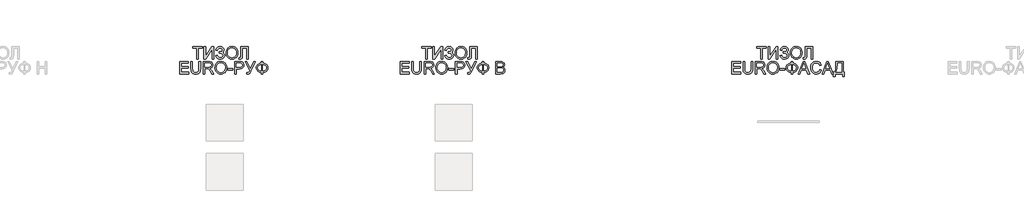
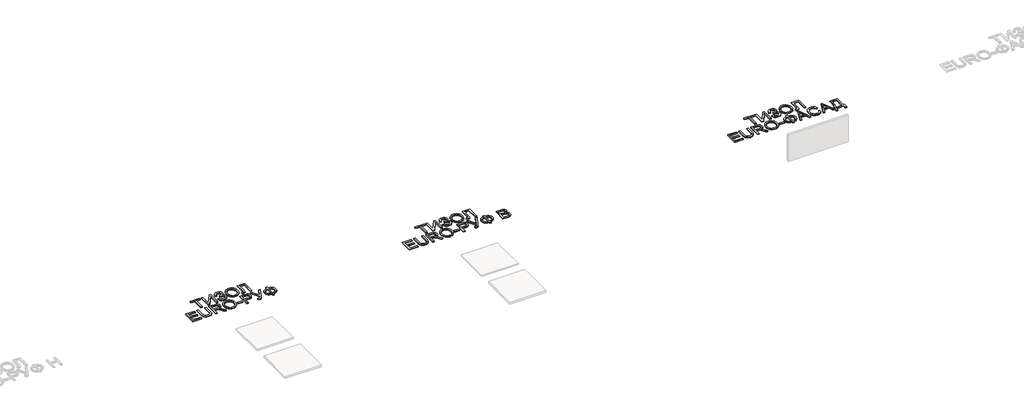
# One storey, part 33 of 35: 3 proxies.
"""IFC4 building model written with IfcOpenShell, lengths in millimetres."""

from ifc_helpers import new_model, si_unit, origin, origin_with_axes, place, context, project, spatial, polyline, outline, extrude, element, save

model = new_model("IFC4")

# Units and contexts
model_context = context("Model", 3, world=origin())
ifc_project = project(units=[si_unit("LENGTHUNIT", "METRE", prefix="MILLI")], contexts=[model_context])

# Site, building, storey
site = spatial("IfcSite", under=ifc_project)
building = spatial("IfcBuilding", under=site)
storey = spatial("IfcBuildingStorey", under=building, Name="Этаж 01", Elevation=0.0)

# Proxies
placement = place(None, origin())
element("IfcBuildingElementProxy", 1, Name="600 мм Arial", ObjectType="600 мм Arial", at=placement, inside=storey, context=model_context, shape_type="SweptSolid", body=[
    extrude(outline(polyline([(57612.8246338, 5315.0742808), (57612.8246338, 5578.7720949), (57513.9379535, 5578.7720949), (57513.9379535, 5616.4432112), (57749.3824304, 5616.4432112), (57749.3824304, 5578.7720949), (57650.4957501, 5578.7720949), (57650.4957501, 5315.0742808), (57612.8246338, 5315.0742808)])), origin_with_axes(), (0.0, 0.0, 1.0), 20.0),
    extrude(outline(polyline([(57791.7624363, 5616.4432112), (57829.4335526, 5616.4432112), (57829.4335526, 5377.7613727), (57987.1813521, 5616.4432112), (58027.2069132, 5616.4432112), (58027.2069132, 5315.0742808), (57989.5357969, 5315.0742808), (57989.5357969, 5553.0939316), (57832.1558793, 5315.0742808), (57791.7624363, 5315.0742808), (57791.7624363, 5616.4432112)])), origin_with_axes(), (0.0, 0.0, 1.0), 20.0),
    extrude(outline(polyline([(58079.0046981, 5399.8342925), (58116.6758144, 5409.2520715), (58124.6312626, 5388.8622119), (58139.8155919, 5368.4539583), (58161.6769795, 5353.1408702), (58189.6636023, 5348.0365075), (58218.018107, 5351.8716773), (58239.6587654, 5363.3771867), (58253.3715668, 5380.3089556), (58257.9425006, 5400.4229036), (58252.9485025, 5421.4933449), (58237.9665082, 5437.7629262), (58214.3760753, 5448.1647896), (58183.5567611, 5451.6320774), (58163.7647098, 5451.6320774), (58163.7647098, 5489.3031937), (58206.402233, 5492.3566142), (58220.2989754, 5497.7828737), (58232.4850665, 5507.9548108), (58240.9831406, 5521.3549125), (58243.8158319, 5536.4656655), (58240.0450415, 5554.2067747), (58228.7326701, 5569.4646804), (58210.9823639, 5579.9769084), (58187.8977687, 5583.4809844), (58167.0296625, 5580.7862488), (58149.4541002, 5572.702042), (58135.9896192, 5560.166463), (58127.4547569, 5544.117611), (58121.384704, 5517.5565309), (58083.7135876, 5526.97431), (58095.4168336, 5568.1770934), (58104.8311638, 5584.3639012), (58116.6206321, 5597.6076531), (58130.7852386, 5607.9083489), (58147.3249831, 5615.2659888), (58166.2398658, 5619.6805728), (58187.5298867, 5621.1521008), (58208.0416072, 5619.6230912), (58226.313846, 5615.0360626), (58242.3466032, 5607.3910149), (58256.1398788, 5596.6879481), (58267.2292217, 5583.9385377), (58275.1501809, 5570.1544592), (58279.9027564, 5555.3357126), (58281.4869483, 5539.4822978), (58279.0221389, 5519.6580568), (58271.6277108, 5502.1974576), (58259.3036639, 5487.1005002), (58242.0499984, 5474.3671847), (58263.000878, 5464.7194794), (58280.2361495, 5448.431504), (58291.76925, 5426.9012102), (58295.6136169, 5401.5265496), (58293.7696084, 5382.8956258), (58288.2375829, 5365.8511931), (58279.0175404, 5350.3932516), (58266.1094809, 5336.5218011), (58250.1571978, 5325.0783718), (58231.8044848, 5316.9044937), (58211.0513418, 5312.0001668), (58187.8977687, 5310.3653912), (58149.6932235, 5315.9571976), (58133.3362703, 5322.9469555), (58118.80953, 5332.7326165), (58106.1130026, 5345.3141808), (58095.2466882, 5360.6916482), (58079.0046981, 5399.8342925)])), origin_with_axes(), (0.0, 0.0, 1.0), 20.0),
    extrude(outline(polyline([(58333.2847332, 5461.7856204), (58335.7955278, 5497.1344817), (58343.3279116, 5528.4274439), (58355.8818847, 5555.6645071), (58373.457447, 5578.8456713), (58395.0015364, 5597.3547342), (58419.4610905, 5610.5754934), (58446.8361095, 5618.5079489), (58477.1265933, 5621.1521008), (58516.6555137, 5616.1856938), (58552.1009439, 5601.286473), (58581.5315035, 5577.502902), (58603.015812, 5545.8834445), (58616.1491993, 5507.9548108), (58620.526995, 5465.2437112), (58615.919273, 5421.9623945), (58602.096107, 5383.5003319), (58579.8208522, 5351.8256921), (58549.8568637, 5328.9066438), (58514.7149361, 5315.0007044), (58476.9058641, 5310.3653912), (58436.7699384, 5315.488148), (58401.1221731, 5330.8564184), (58371.7651899, 5355.0814477), (58350.5016105, 5386.7744816), (58337.5889525, 5423.2407844), (58333.2847332, 5461.7856204)]), holes=[polyline([(58370.9558495, 5461.4177384), (58372.8389454, 5436.4431495), (58378.4882333, 5414.2736608), (58387.9037131, 5394.9092722), (58401.0853849, 5378.3499839), (58417.108945, 5365.087838), (58435.0500901, 5355.6148766), (58454.90882, 5349.9310998), (58476.6851349, 5348.0365075), (58498.8339303, 5349.9494939), (58518.927185, 5355.688453), (58536.9648991, 5365.2533849), (58552.9470725, 5378.6442895), (58566.0321752, 5395.5530657), (58575.3786771, 5415.6716123), (58580.9865783, 5438.9999294), (58582.8558787, 5465.5380168), (58579.6553053, 5498.8865197), (58570.0535853, 5527.710074), (58554.2990388, 5551.2821128), (58532.6399864, 5568.8760692), (58506.5111677, 5579.8297556), (58477.3473225, 5583.4809844), (58456.327465, 5581.7220487), (58436.8251207, 5576.4452413), (58418.8402897, 5567.6505623), (58402.3729719, 5555.3380118), (58388.6279808, 5538.91438), (58378.8101301, 5517.7864572), (58372.9194196, 5491.9542433), (58370.9558495, 5461.4177384)])]), origin_with_axes(), (0.0, 0.0, 1.0), 20.0),
    extrude(outline(polyline([(58695.8692276, 5616.4432112), (58879.5159196, 5616.4432112), (58879.5159196, 5315.0742808), (58841.8448033, 5315.0742808), (58841.8448033, 5578.7720949), (58733.5403439, 5578.7720949), (58733.5403439, 5424.9974209), (58729.1625482, 5356.3874288), (58722.3843224, 5337.0000477), (58710.8052366, 5322.4687089), (58694.9495226, 5313.3912206), (58675.3414123, 5310.3653912), (58644.0714427, 5315.0742808), (58648.7803322, 5352.7453971), (58666.80655, 5348.0365075), (58679.5444641, 5350.5656963), (58688.6219523, 5358.1532624), (58694.0574088, 5375.1218194), (58695.8692276, 5405.7939808), (58695.8692276, 5616.4432112)])), origin_with_axes(), (0.0, 0.0, 1.0), 20.0),
    extrude(outline(polyline([(57193.7334649, 4949.1498272), (57193.7334649, 5250.5187577), (57410.3423837, 5250.5187577), (57410.3423837, 5212.8476414), (57231.4045812, 5212.8476414), (57231.4045812, 5123.3787401), (57400.9246046, 5123.3787401), (57400.9246046, 5085.7076238), (57231.4045812, 5085.7076238), (57231.4045812, 4986.8209435), (57415.0512732, 4986.8209435), (57415.0512732, 4949.1498272), (57193.7334649, 4949.1498272)])), origin_with_axes(), (0.0, 0.0, 1.0), 20.0),
    extrude(outline(polyline([(57669.3313083, 5250.5187577), (57707.0024246, 5250.5187577), (57707.0024246, 5076.6577268), (57704.4456447, 5035.9423869), (57696.7753051, 5004.5896439), (57682.4463014, 4980.4014027), (57659.9135292, 4961.1795685), (57629.1218062, 4948.6255954), (57590.0159501, 4944.4409377), (57551.7654197, 4948.0829694), (57521.1852288, 4959.0090647), (57498.2661805, 4976.8421444), (57482.9990777, 5001.2051295), (57474.4182302, 5033.8822478), (57471.5579477, 5076.6577268), (57471.5579477, 5250.5187577), (57509.229064, 5250.5187577), (57509.229064, 5077.9821019), (57511.0868681, 5044.1277613), (57516.6602803, 5020.5557225), (57526.758641, 5004.230959), (57542.1912907, 4992.1184443), (57562.3144359, 4984.6136516), (57586.484283, 4982.112054), (57624.7991928, 4987.0600668), (57639.141992, 4993.2450829), (57650.2750209, 5001.9041053), (57658.6121466, 5014.0809994), (57664.5672364, 5030.8196302), (57669.3313083, 5077.9821019), (57669.3313083, 5250.5187577)])), origin_with_axes(), (0.0, 0.0, 1.0), 20.0),
    extrude(outline(polyline([(57772.9268781, 4949.1498272), (57772.9268781, 5250.5187577), (57902.7892224, 5250.5187577), (57937.6920267, 5248.4862097), (57963.0850814, 5242.3885656), (57981.6447281, 5231.1313765), (57996.0473082, 5213.6201936), (58005.2903433, 5191.9059588), (58008.371355, 5168.0396144), (58003.2669923, 5138.3515373), (57987.9539043, 5113.7402319), (57976.3541251, 5103.710849), (57961.9722384, 5095.69562), (57924.8621421, 5085.7076238), (57946.2728742, 5069.5943925), (57976.8070798, 5030.8196302), (58027.0597604, 4949.1498272), (57983.281803, 4949.1498272), (57944.0655823, 5011.61619), (57915.7386686, 5052.9661263), (57895.8362527, 5072.5006602), (57877.9203995, 5079.6743591), (57856.068209, 5080.9987343), (57810.5979944, 5080.9987343), (57810.5979944, 4949.1498272), (57772.9268781, 4949.1498272)]), holes=[polyline([(57810.5979944, 5118.6698506), (57894.9165477, 5118.6698506), (57919.1323801, 5120.0034228), (57937.921953, 5124.0041395), (57952.0670157, 5130.9387151), (57962.3493174, 5141.0738641), (57968.6125084, 5153.3335316), (57970.7002387, 5166.6416628), (57966.7179161, 5185.0173684), (57954.7709483, 5199.8246187), (57934.2155419, 5209.5918857), (57904.4079032, 5212.8476414), (57810.5979944, 5212.8476414), (57810.5979944, 5118.6698506)])]), origin_with_axes(), (0.0, 0.0, 1.0), 20.0),
    extrude(outline(polyline([(58060.16914, 5095.8611669), (58062.6799346, 5131.2100281), (58070.2123184, 5162.5029903), (58082.7662915, 5189.7400536), (58100.3418538, 5212.9212178), (58121.8859432, 5231.4302807), (58146.3454973, 5244.6510399), (58173.7205163, 5252.5834954), (58204.0110001, 5255.2276472), (58243.5399204, 5250.2612403), (58278.9853507, 5235.3620195), (58308.4159103, 5211.5784485), (58329.9002188, 5179.958991), (58343.033606, 5142.0303573), (58347.4114018, 5099.3192577), (58342.8036798, 5056.0379409), (58328.9805138, 5017.5758783), (58306.705259, 4985.9012385), (58276.7412705, 4962.9821902), (58241.5993429, 4949.0762508), (58203.7902709, 4944.4409377), (58163.6543452, 4949.5636945), (58128.0065799, 4964.9319648), (58098.6495966, 4989.1569942), (58077.3860173, 5020.8500281), (58064.4733593, 5057.3163309), (58060.16914, 5095.8611669)]), holes=[polyline([(58097.8402563, 5095.4932849), (58099.7233522, 5070.518696), (58105.3726401, 5048.3492072), (58114.7881199, 5028.9848187), (58127.9697917, 5012.4255304), (58143.9933518, 4999.1633845), (58161.9344969, 4989.6904231), (58181.7932268, 4984.0066463), (58203.5695417, 4982.112054), (58225.718337, 4984.0250404), (58245.8115918, 4989.7639995), (58263.8493058, 4999.3289314), (58279.8314793, 5012.719836), (58292.916582, 5029.6286122), (58302.2630839, 5049.7471588), (58307.8709851, 5073.0754758), (58309.7402855, 5099.6135633), (58306.5397121, 5132.9620661), (58296.937992, 5161.7856204), (58281.1834456, 5185.3576593), (58259.5243931, 5202.9516157), (58233.3955744, 5213.9053021), (58204.2317293, 5217.5565309), (58183.2118718, 5215.7975951), (58163.7095275, 5210.5207878), (58145.7246965, 5201.7261088), (58129.2573786, 5189.4135583), (58115.5123876, 5172.9899265), (58105.6945369, 5151.8620036), (58099.8038264, 5126.0297898), (58097.8402563, 5095.4932849)])]), origin_with_axes(), (0.0, 0.0, 1.0), 20.0),
    extrude(outline(polyline([(58375.664739, 5038.6187285), (58375.664739, 5076.2898448), (58493.3869775, 5076.2898448), (58493.3869775, 5038.6187285), (58375.664739, 5038.6187285)])), origin_with_axes(), (0.0, 0.0, 1.0), 20.0),
    extrude(outline(polyline([(58540.4758729, 4949.1498272), (58540.4758729, 5250.5187577), (58652.1648466, 5250.5187577), (58697.1936028, 5247.6492781), (58717.2707627, 5242.287398), (58733.7978613, 5233.5593977), (58747.1059925, 5221.069804), (58757.52625, 5204.4231437), (58764.2584905, 5184.7874422), (58766.5025707, 5163.3307248), (58764.9873567, 5144.830859), (58760.4417148, 5127.8117182), (58752.865645, 5112.2733024), (58742.2591472, 5098.2156117), (58727.697918, 5086.5629495), (58708.2576538, 5078.2396193), (58683.9383547, 5073.2456213), (58654.7400206, 5071.5809552), (58578.1469892, 5071.5809552), (58578.1469892, 4949.1498272), (58540.4758729, 4949.1498272)]), holes=[polyline([(58578.1469892, 5109.2520715), (58656.9473125, 5109.2520715), (58690.3509977, 5112.7101623), (58712.4239174, 5123.0844345), (58724.7295701, 5139.7310948), (58728.8314544, 5162.0063496), (58726.4126303, 5178.9289214), (58719.1561579, 5193.2027428), (58707.9633482, 5203.9448971), (58693.735512, 5210.2724674), (58656.0643957, 5212.8476414), (58578.1469892, 5212.8476414), (58578.1469892, 5109.2520715)])]), origin_with_axes(), (0.0, 0.0, 1.0), 20.0),
    extrude(outline(polyline([(58797.1103527, 5250.5187577), (58838.8281709, 5250.5187577), (58928.9592598, 5072.0224136), (59010.0404515, 5250.5187577), (59051.3903878, 5250.5187577), (58936.9790873, 5015.7364684), (58919.7070276, 4979.2793626), (58905.8562705, 4958.0525715), (58891.0858084, 4947.8438461), (58871.0546337, 4944.4409377), (58837.1359138, 4949.1498272), (58837.1359138, 4982.112054), (58866.7872026, 4982.112054), (58878.6513969, 4984.2089814), (58888.7865459, 4990.4997635), (58898.5170247, 5004.240156), (58909.1672084, 5028.6859146), (58797.1103527, 5250.5187577)])), origin_with_axes(), (0.0, 0.0, 1.0), 20.0),
    extrude(outline(polyline([(59195.0115187, 5212.8476414), (59195.0115187, 5250.5187577), (59232.682635, 5250.5187577), (59232.682635, 5212.8476414), (59259.5541155, 5209.5275064), (59283.4411533, 5202.6573101), (59304.3437484, 5192.2370526), (59322.2619008, 5178.2667338), (59336.6345905, 5161.5602927), (59346.9007974, 5142.9316682), (59353.0605216, 5122.3808602), (59355.113763, 5099.9078689), (59353.1249009, 5077.8855329), (59347.1583148, 5057.5830453), (59337.2140046, 5039.000406), (59323.2919704, 5022.1376151), (59305.6957147, 5007.928173), (59284.7287402, 4997.3055804), (59260.391047, 4990.2698372), (59232.682635, 4986.8209435), (59232.682635, 4949.1498272), (59195.0115187, 4949.1498272), (59195.0115187, 4986.8209435), (59169.8437917, 4989.628343), (59146.8741596, 4995.9904023), (59126.1026225, 5005.9071213), (59107.5291802, 5019.3785001), (59092.2390848, 5035.8481172), (59081.3175881, 5054.759551), (59074.76469, 5076.1128016), (59072.5803907, 5099.9078689), (59074.7577922, 5123.8110015), (59081.2899969, 5145.1941425), (59092.1770047, 5164.0572918), (59107.4188156, 5180.4004494), (59125.9577689, 5193.7407702), (59146.7362039, 5203.5954092), (59169.7541204, 5209.9643662), (59195.0115187, 5212.8476414)]), holes=[polyline([(59195.0115187, 5175.1765251), (59160.7341138, 5169.1432603), (59133.6855901, 5154.1336749), (59123.4331787, 5143.4283089), (59116.1100278, 5130.8099564), (59111.7161372, 5116.2786176), (59110.251507, 5099.8342925), (59111.6977431, 5083.5394193), (59116.0364514, 5069.0885547), (59123.2676318, 5056.4816986), (59133.3912845, 5045.718851), (59160.3662318, 5030.5713098), (59195.0115187, 5024.4920598), (59195.0115187, 5175.1765251)]), polyline([(59232.682635, 5175.1765251), (59232.682635, 5024.4920598), (59267.9257301, 5030.7184626), (59294.7811158, 5045.8660038), (59304.6955355, 5056.5920632), (59311.7772639, 5069.1621311), (59317.4426467, 5099.8342925), (59311.8784315, 5130.0925866), (59304.9231625, 5142.5867788), (59295.185786, 5153.3243346), (59268.4315679, 5168.6466197), (59232.682635, 5175.1765251)])]), origin_with_axes(), (0.0, 0.0, 1.0), 20.0),
])
element("IfcBuildingElementProxy", 2, Name="600 мм Arial", ObjectType="600 мм Arial", at=placement, inside=storey, context=model_context, shape_type="SweptSolid", body=[
    extrude(outline(polyline([(63212.8246338, 5315.0742808), (63212.8246338, 5578.7720949), (63113.9379535, 5578.7720949), (63113.9379535, 5616.4432112), (63349.3824304, 5616.4432112), (63349.3824304, 5578.7720949), (63250.4957501, 5578.7720949), (63250.4957501, 5315.0742808), (63212.8246338, 5315.0742808)])), origin_with_axes(), (0.0, 0.0, 1.0), 20.0),
    extrude(outline(polyline([(63391.7624363, 5616.4432112), (63429.4335526, 5616.4432112), (63429.4335526, 5377.7613727), (63587.1813521, 5616.4432112), (63627.2069132, 5616.4432112), (63627.2069132, 5315.0742808), (63589.5357969, 5315.0742808), (63589.5357969, 5553.0939316), (63432.1558793, 5315.0742808), (63391.7624363, 5315.0742808), (63391.7624363, 5616.4432112)])), origin_with_axes(), (0.0, 0.0, 1.0), 20.0),
    extrude(outline(polyline([(63679.0046981, 5399.8342925), (63716.6758144, 5409.2520715), (63724.6312626, 5388.8622119), (63739.8155919, 5368.4539583), (63761.6769795, 5353.1408702), (63789.6636023, 5348.0365075), (63818.018107, 5351.8716773), (63839.6587654, 5363.3771867), (63853.3715668, 5380.3089556), (63857.9425006, 5400.4229036), (63852.9485025, 5421.4933449), (63837.9665082, 5437.7629262), (63814.3760753, 5448.1647896), (63783.5567611, 5451.6320774), (63763.7647098, 5451.6320774), (63763.7647098, 5489.3031937), (63806.402233, 5492.3566142), (63820.2989754, 5497.7828737), (63832.4850665, 5507.9548108), (63840.9831406, 5521.3549125), (63843.8158319, 5536.4656655), (63840.0450415, 5554.2067747), (63828.7326701, 5569.4646804), (63810.9823639, 5579.9769084), (63787.8977687, 5583.4809844), (63767.0296625, 5580.7862488), (63749.4541002, 5572.702042), (63735.9896192, 5560.166463), (63727.4547569, 5544.117611), (63721.384704, 5517.5565309), (63683.7135876, 5526.97431), (63695.4168336, 5568.1770934), (63704.8311638, 5584.3639012), (63716.6206321, 5597.6076531), (63730.7852386, 5607.9083489), (63747.3249831, 5615.2659888), (63766.2398658, 5619.6805728), (63787.5298867, 5621.1521008), (63808.0416072, 5619.6230912), (63826.313846, 5615.0360626), (63842.3466032, 5607.3910149), (63856.1398788, 5596.6879481), (63867.2292217, 5583.9385377), (63875.1501809, 5570.1544592), (63879.9027564, 5555.3357126), (63881.4869483, 5539.4822978), (63879.0221389, 5519.6580568), (63871.6277108, 5502.1974576), (63859.3036639, 5487.1005002), (63842.0499984, 5474.3671847), (63863.000878, 5464.7194794), (63880.2361495, 5448.431504), (63891.76925, 5426.9012102), (63895.6136169, 5401.5265496), (63893.7696084, 5382.8956258), (63888.2375829, 5365.8511931), (63879.0175404, 5350.3932516), (63866.1094809, 5336.5218011), (63850.1571978, 5325.0783718), (63831.8044848, 5316.9044937), (63811.0513418, 5312.0001668), (63787.8977687, 5310.3653912), (63749.6932235, 5315.9571976), (63733.3362703, 5322.9469555), (63718.80953, 5332.7326165), (63706.1130026, 5345.3141808), (63695.2466882, 5360.6916482), (63679.0046981, 5399.8342925)])), origin_with_axes(), (0.0, 0.0, 1.0), 20.0),
    extrude(outline(polyline([(63933.2847332, 5461.7856204), (63935.7955278, 5497.1344817), (63943.3279116, 5528.4274439), (63955.8818847, 5555.6645071), (63973.457447, 5578.8456713), (63995.0015364, 5597.3547342), (64019.4610905, 5610.5754934), (64046.8361095, 5618.5079489), (64077.1265933, 5621.1521008), (64116.6555137, 5616.1856938), (64152.1009439, 5601.286473), (64181.5315035, 5577.502902), (64203.015812, 5545.8834445), (64216.1491993, 5507.9548108), (64220.526995, 5465.2437112), (64215.919273, 5421.9623945), (64202.096107, 5383.5003319), (64179.8208522, 5351.8256921), (64149.8568637, 5328.9066438), (64114.7149361, 5315.0007044), (64076.9058641, 5310.3653912), (64036.7699384, 5315.488148), (64001.1221731, 5330.8564184), (63971.7651899, 5355.0814477), (63950.5016105, 5386.7744816), (63937.5889525, 5423.2407844), (63933.2847332, 5461.7856204)]), holes=[polyline([(63970.9558495, 5461.4177384), (63972.8389454, 5436.4431495), (63978.4882333, 5414.2736608), (63987.9037131, 5394.9092722), (64001.0853849, 5378.3499839), (64017.108945, 5365.087838), (64035.0500901, 5355.6148766), (64054.90882, 5349.9310998), (64076.6851349, 5348.0365075), (64098.8339303, 5349.9494939), (64118.927185, 5355.688453), (64136.9648991, 5365.2533849), (64152.9470725, 5378.6442895), (64166.0321752, 5395.5530657), (64175.3786771, 5415.6716123), (64180.9865783, 5438.9999294), (64182.8558787, 5465.5380168), (64179.6553053, 5498.8865197), (64170.0535853, 5527.710074), (64154.2990388, 5551.2821128), (64132.6399864, 5568.8760692), (64106.5111677, 5579.8297556), (64077.3473225, 5583.4809844), (64056.327465, 5581.7220487), (64036.8251207, 5576.4452413), (64018.8402897, 5567.6505623), (64002.3729719, 5555.3380118), (63988.6279808, 5538.91438), (63978.8101301, 5517.7864572), (63972.9194196, 5491.9542433), (63970.9558495, 5461.4177384)])]), origin_with_axes(), (0.0, 0.0, 1.0), 20.0),
    extrude(outline(polyline([(64295.8692276, 5616.4432112), (64479.5159196, 5616.4432112), (64479.5159196, 5315.0742808), (64441.8448033, 5315.0742808), (64441.8448033, 5578.7720949), (64333.5403439, 5578.7720949), (64333.5403439, 5424.9974209), (64329.1625482, 5356.3874288), (64322.3843224, 5337.0000477), (64310.8052366, 5322.4687089), (64294.9495226, 5313.3912206), (64275.3414123, 5310.3653912), (64244.0714427, 5315.0742808), (64248.7803322, 5352.7453971), (64266.80655, 5348.0365075), (64279.5444641, 5350.5656963), (64288.6219523, 5358.1532624), (64294.0574088, 5375.1218194), (64295.8692276, 5405.7939808), (64295.8692276, 5616.4432112)])), origin_with_axes(), (0.0, 0.0, 1.0), 20.0),
    extrude(outline(polyline([(62595.9601043, 4949.1498272), (62595.9601043, 5250.5187577), (62812.5690231, 5250.5187577), (62812.5690231, 5212.8476414), (62633.6312206, 5212.8476414), (62633.6312206, 5123.3787401), (62803.151244, 5123.3787401), (62803.151244, 5085.7076238), (62633.6312206, 5085.7076238), (62633.6312206, 4986.8209435), (62817.2779126, 4986.8209435), (62817.2779126, 4949.1498272), (62595.9601043, 4949.1498272)])), origin_with_axes(), (0.0, 0.0, 1.0), 20.0),
    extrude(outline(polyline([(63071.5579477, 5250.5187577), (63109.229064, 5250.5187577), (63109.229064, 5076.6577268), (63106.6722841, 5035.9423869), (63099.0019445, 5004.5896439), (63084.6729408, 4980.4014027), (63062.1401686, 4961.1795685), (63031.3484456, 4948.6255954), (62992.2425895, 4944.4409377), (62953.9920591, 4948.0829694), (62923.4118682, 4959.0090647), (62900.4928199, 4976.8421444), (62885.2257171, 5001.2051295), (62876.6448696, 5033.8822478), (62873.7845871, 5076.6577268), (62873.7845871, 5250.5187577), (62911.4557034, 5250.5187577), (62911.4557034, 5077.9821019), (62913.3135074, 5044.1277613), (62918.8869197, 5020.5557225), (62928.9852804, 5004.230959), (62944.4179301, 4992.1184443), (62964.5410753, 4984.6136516), (62988.7109224, 4982.112054), (63027.0258322, 4987.0600668), (63041.3686314, 4993.2450829), (63052.5016603, 5001.9041053), (63060.838786, 5014.0809994), (63066.7938758, 5030.8196302), (63071.5579477, 5077.9821019), (63071.5579477, 5250.5187577)])), origin_with_axes(), (0.0, 0.0, 1.0), 20.0),
    extrude(outline(polyline([(63175.1535175, 4949.1498272), (63175.1535175, 5250.5187577), (63305.0158618, 5250.5187577), (63339.9186661, 5248.4862097), (63365.3117208, 5242.3885656), (63383.8713675, 5231.1313765), (63398.2739476, 5213.6201936), (63407.5169827, 5191.9059588), (63410.5979944, 5168.0396144), (63405.4936317, 5138.3515373), (63390.1805437, 5113.7402319), (63378.5807645, 5103.710849), (63364.1988778, 5095.69562), (63327.0887815, 5085.7076238), (63348.4995136, 5069.5943925), (63379.0337192, 5030.8196302), (63429.2863998, 4949.1498272), (63385.5084424, 4949.1498272), (63346.2922217, 5011.61619), (63317.965308, 5052.9661263), (63298.0628921, 5072.5006602), (63280.1470389, 5079.6743591), (63258.2948484, 5080.9987343), (63212.8246338, 5080.9987343), (63212.8246338, 4949.1498272), (63175.1535175, 4949.1498272)]), holes=[polyline([(63212.8246338, 5118.6698506), (63297.1431871, 5118.6698506), (63321.3590194, 5120.0034228), (63340.1485923, 5124.0041395), (63354.2936551, 5130.9387151), (63364.5759568, 5141.0738641), (63370.8391478, 5153.3335316), (63372.9268781, 5166.6416628), (63368.9445555, 5185.0173684), (63356.9975877, 5199.8246187), (63336.4421812, 5209.5918857), (63306.6345426, 5212.8476414), (63212.8246338, 5212.8476414), (63212.8246338, 5118.6698506)])]), origin_with_axes(), (0.0, 0.0, 1.0), 20.0),
    extrude(outline(polyline([(63462.3957793, 5095.8611669), (63464.906574, 5131.2100281), (63472.4389578, 5162.5029903), (63484.9929309, 5189.7400536), (63502.5684932, 5212.9212178), (63524.1125826, 5231.4302807), (63548.5721367, 5244.6510399), (63575.9471557, 5252.5834954), (63606.2376395, 5255.2276472), (63645.7665598, 5250.2612403), (63681.2119901, 5235.3620195), (63710.6425497, 5211.5784485), (63732.1268582, 5179.958991), (63745.2602454, 5142.0303573), (63749.6380412, 5099.3192577), (63745.0303192, 5056.0379409), (63731.2071532, 5017.5758783), (63708.9318984, 4985.9012385), (63678.9679099, 4962.9821902), (63643.8259823, 4949.0762508), (63606.0169103, 4944.4409377), (63565.8809846, 4949.5636945), (63530.2332193, 4964.9319648), (63500.876236, 4989.1569942), (63479.6126567, 5020.8500281), (63466.6999987, 5057.3163309), (63462.3957793, 5095.8611669)]), holes=[polyline([(63500.0668957, 5095.4932849), (63501.9499916, 5070.518696), (63507.5992795, 5048.3492072), (63517.0147593, 5028.9848187), (63530.1964311, 5012.4255304), (63546.2199912, 4999.1633845), (63564.1611363, 4989.6904231), (63584.0198662, 4984.0066463), (63605.7961811, 4982.112054), (63627.9449764, 4984.0250404), (63648.0382312, 4989.7639995), (63666.0759452, 4999.3289314), (63682.0581187, 5012.719836), (63695.1432214, 5029.6286122), (63704.4897233, 5049.7471588), (63710.0976245, 5073.0754758), (63711.9669249, 5099.6135633), (63708.7663515, 5132.9620661), (63699.1646314, 5161.7856204), (63683.410085, 5185.3576593), (63661.7510325, 5202.9516157), (63635.6222138, 5213.9053021), (63606.4583687, 5217.5565309), (63585.4385112, 5215.7975951), (63565.9361669, 5210.5207878), (63547.9513358, 5201.7261088), (63531.484018, 5189.4135583), (63517.739027, 5172.9899265), (63507.9211762, 5151.8620036), (63502.0304658, 5126.0297898), (63500.0668957, 5095.4932849)])]), origin_with_axes(), (0.0, 0.0, 1.0), 20.0),
    extrude(outline(polyline([(63777.8913784, 5038.6187285), (63777.8913784, 5076.2898448), (63895.6136169, 5076.2898448), (63895.6136169, 5038.6187285), (63777.8913784, 5038.6187285)])), origin_with_axes(), (0.0, 0.0, 1.0), 20.0),
    extrude(outline(polyline([(63942.7025122, 4949.1498272), (63942.7025122, 5250.5187577), (64054.391486, 5250.5187577), (64099.4202422, 5247.6492781), (64119.4974021, 5242.287398), (64136.0245007, 5233.5593977), (64149.3326319, 5221.069804), (64159.7528894, 5204.4231437), (64166.4851299, 5184.7874422), (64168.7292101, 5163.3307248), (64167.2139961, 5144.830859), (64162.6683542, 5127.8117182), (64155.0922844, 5112.2733024), (64144.4857866, 5098.2156117), (64129.9245574, 5086.5629495), (64110.4842932, 5078.2396193), (64086.1649941, 5073.2456213), (64056.96666, 5071.5809552), (63980.3736286, 5071.5809552), (63980.3736286, 4949.1498272), (63942.7025122, 4949.1498272)]), holes=[polyline([(63980.3736286, 5109.2520715), (64059.1739519, 5109.2520715), (64092.5776371, 5112.7101623), (64114.6505568, 5123.0844345), (64126.9562095, 5139.7310948), (64131.0580938, 5162.0063496), (64128.6392697, 5178.9289214), (64121.3827973, 5193.2027428), (64110.1899876, 5203.9448971), (64095.9621514, 5210.2724674), (64058.2910351, 5212.8476414), (63980.3736286, 5212.8476414), (63980.3736286, 5109.2520715)])]), origin_with_axes(), (0.0, 0.0, 1.0), 20.0),
    extrude(outline(polyline([(64199.3369921, 5250.5187577), (64241.0548103, 5250.5187577), (64331.1858992, 5072.0224136), (64412.2670909, 5250.5187577), (64453.6170272, 5250.5187577), (64339.2057267, 5015.7364684), (64321.933667, 4979.2793626), (64308.0829099, 4958.0525715), (64293.3124478, 4947.8438461), (64273.2812731, 4944.4409377), (64239.3625532, 4949.1498272), (64239.3625532, 4982.112054), (64269.013842, 4982.112054), (64280.8780363, 4984.2089814), (64291.0131853, 4990.4997635), (64300.7436641, 5004.240156), (64311.3938478, 5028.6859146), (64199.3369921, 5250.5187577)])), origin_with_axes(), (0.0, 0.0, 1.0), 20.0),
    extrude(outline(polyline([(64597.2381581, 5212.8476414), (64597.2381581, 5250.5187577), (64634.9092744, 5250.5187577), (64634.9092744, 5212.8476414), (64661.7807549, 5209.5275064), (64685.6677927, 5202.6573101), (64706.5703878, 5192.2370526), (64724.4885402, 5178.2667338), (64738.8612299, 5161.5602927), (64749.1274368, 5142.9316682), (64755.287161, 5122.3808602), (64757.3404024, 5099.9078689), (64755.3515403, 5077.8855329), (64749.3849542, 5057.5830453), (64739.440644, 5039.000406), (64725.5186098, 5022.1376151), (64707.9223541, 5007.928173), (64686.9553796, 4997.3055804), (64662.6176864, 4990.2698372), (64634.9092744, 4986.8209435), (64634.9092744, 4949.1498272), (64597.2381581, 4949.1498272), (64597.2381581, 4986.8209435), (64572.0704311, 4989.628343), (64549.100799, 4995.9904023), (64528.3292618, 5005.9071213), (64509.7558196, 5019.3785001), (64494.4657242, 5035.8481172), (64483.5442275, 5054.759551), (64476.9913294, 5076.1128016), (64474.8070301, 5099.9078689), (64476.9844316, 5123.8110015), (64483.5166363, 5145.1941425), (64494.4036441, 5164.0572918), (64509.645455, 5180.4004494), (64528.1844083, 5193.7407702), (64548.9628433, 5203.5954092), (64571.9807598, 5209.9643662), (64597.2381581, 5212.8476414)]), holes=[polyline([(64597.2381581, 5175.1765251), (64562.9607532, 5169.1432603), (64535.9122295, 5154.1336749), (64525.6598181, 5143.4283089), (64518.3366672, 5130.8099564), (64513.9427766, 5116.2786176), (64512.4781464, 5099.8342925), (64513.9243825, 5083.5394193), (64518.2630908, 5069.0885547), (64525.4942712, 5056.4816986), (64535.6179239, 5045.718851), (64562.5928712, 5030.5713098), (64597.2381581, 5024.4920598), (64597.2381581, 5175.1765251)]), polyline([(64634.9092744, 5175.1765251), (64634.9092744, 5024.4920598), (64670.1523695, 5030.7184626), (64697.0077552, 5045.8660038), (64706.9221749, 5056.5920632), (64714.0039033, 5069.1621311), (64719.6692861, 5099.8342925), (64714.1050709, 5130.0925866), (64707.1498019, 5142.5867788), (64697.4124254, 5153.3243346), (64670.6582073, 5168.6466197), (64634.9092744, 5175.1765251)])]), origin_with_axes(), (0.0, 0.0, 1.0), 20.0),
    extrude(outline(polyline([(64926.8604257, 4949.1498272), (64926.8604257, 5250.5187577), (65041.8603374, 5250.5187577), (65073.488992, 5248.3022687), (65098.1830709, 5241.6528016), (65117.1105996, 5230.4048096), (65131.4396033, 5214.3927458), (65140.4619092, 5195.5571876), (65143.4693445, 5175.8387127), (65140.9401558, 5157.6929332), (65133.3525896, 5140.6324057), (65120.6514638, 5125.7055938), (65102.7815958, 5113.9609611), (65124.1279486, 5102.8141366), (65139.9008892, 5085.8547766), (65149.640565, 5064.2049212), (65152.8871236, 5038.9866105), (65150.6706346, 5017.9713515), (65144.0211675, 4998.4828028), (65134.0975507, 4981.9097189), (65122.0586124, 4969.6408544), (65107.3157414, 4960.7565042), (65089.2803266, 4954.3369634), (65040.9774207, 4949.1498272), (64926.8604257, 4949.1498272)]), holes=[polyline([(64964.5315421, 5128.0876297), (65033.3254752, 5128.0876297), (65073.498189, 5131.3249912), (65087.5604783, 5136.9076005), (65097.6680361, 5145.2677189), (65103.7656802, 5156.2765876), (65105.7982282, 5169.8054479), (65103.9036359, 5182.9388352), (65098.2198591, 5194.3799652), (65089.0044151, 5203.3103006), (65076.5148214, 5208.911304), (65028.1015508, 5212.8476414), (64964.5315421, 5212.8476414), (64964.5315421, 5128.0876297)]), polyline([(64964.5315421, 4986.8209435), (65041.786761, 4986.8209435), (65069.7457927, 4988.2924715), (65093.400605, 4996.49624), (65109.072378, 5013.2348708), (65113.6800999, 5025.0622769), (65115.2160073, 5038.6187285), (65113.4133855, 5054.3640779), (65108.0055202, 5067.9021353), (65098.5601499, 5078.4879397), (65084.6450135, 5085.37653), (65064.9357356, 5089.1565175), (65038.1079411, 5090.4165134), (64964.5315421, 5090.4165134), (64964.5315421, 4986.8209435)])]), origin_with_axes(), (0.0, 0.0, 1.0), 20.0),
])
element("IfcBuildingElementProxy", 3, Name="600 мм Arial", ObjectType="600 мм Arial", at=placement, inside=storey, context=model_context, shape_type="SweptSolid", body=[
    extrude(outline(polyline([(71412.8246338, 5315.0742808), (71412.8246338, 5578.7720949), (71313.9379535, 5578.7720949), (71313.9379535, 5616.4432112), (71549.3824304, 5616.4432112), (71549.3824304, 5578.7720949), (71450.4957501, 5578.7720949), (71450.4957501, 5315.0742808), (71412.8246338, 5315.0742808)])), origin_with_axes(), (0.0, 0.0, 1.0), 20.0),
    extrude(outline(polyline([(71591.7624363, 5616.4432112), (71629.4335526, 5616.4432112), (71629.4335526, 5377.7613727), (71787.1813521, 5616.4432112), (71827.2069132, 5616.4432112), (71827.2069132, 5315.0742808), (71789.5357969, 5315.0742808), (71789.5357969, 5553.0939316), (71632.1558793, 5315.0742808), (71591.7624363, 5315.0742808), (71591.7624363, 5616.4432112)])), origin_with_axes(), (0.0, 0.0, 1.0), 20.0),
    extrude(outline(polyline([(71879.0046981, 5399.8342925), (71916.6758144, 5409.2520715), (71924.6312626, 5388.8622119), (71939.8155919, 5368.4539583), (71961.6769795, 5353.1408702), (71989.6636023, 5348.0365075), (72018.018107, 5351.8716773), (72039.6587654, 5363.3771867), (72053.3715668, 5380.3089556), (72057.9425006, 5400.4229036), (72052.9485025, 5421.4933449), (72037.9665082, 5437.7629262), (72014.3760753, 5448.1647896), (71983.5567611, 5451.6320774), (71963.7647098, 5451.6320774), (71963.7647098, 5489.3031937), (72006.402233, 5492.3566142), (72020.2989754, 5497.7828737), (72032.4850665, 5507.9548108), (72040.9831406, 5521.3549125), (72043.8158319, 5536.4656655), (72040.0450415, 5554.2067747), (72028.7326701, 5569.4646804), (72010.9823639, 5579.9769084), (71987.8977687, 5583.4809844), (71967.0296625, 5580.7862488), (71949.4541002, 5572.702042), (71935.9896192, 5560.166463), (71927.4547569, 5544.117611), (71921.384704, 5517.5565309), (71883.7135876, 5526.97431), (71895.4168336, 5568.1770934), (71904.8311638, 5584.3639012), (71916.6206321, 5597.6076531), (71930.7852386, 5607.9083489), (71947.3249831, 5615.2659888), (71966.2398658, 5619.6805728), (71987.5298867, 5621.1521008), (72008.0416072, 5619.6230912), (72026.313846, 5615.0360626), (72042.3466032, 5607.3910149), (72056.1398788, 5596.6879481), (72067.2292217, 5583.9385377), (72075.1501809, 5570.1544592), (72079.9027564, 5555.3357126), (72081.4869483, 5539.4822978), (72079.0221389, 5519.6580568), (72071.6277108, 5502.1974576), (72059.3036639, 5487.1005002), (72042.0499984, 5474.3671847), (72063.000878, 5464.7194794), (72080.2361495, 5448.431504), (72091.76925, 5426.9012102), (72095.6136169, 5401.5265496), (72093.7696084, 5382.8956258), (72088.2375829, 5365.8511931), (72079.0175404, 5350.3932516), (72066.1094809, 5336.5218011), (72050.1571978, 5325.0783718), (72031.8044848, 5316.9044937), (72011.0513418, 5312.0001668), (71987.8977687, 5310.3653912), (71949.6932235, 5315.9571976), (71933.3362703, 5322.9469555), (71918.80953, 5332.7326165), (71906.1130026, 5345.3141808), (71895.2466882, 5360.6916482), (71879.0046981, 5399.8342925)])), origin_with_axes(), (0.0, 0.0, 1.0), 20.0),
    extrude(outline(polyline([(72133.2847332, 5461.7856204), (72135.7955278, 5497.1344817), (72143.3279116, 5528.4274439), (72155.8818847, 5555.6645071), (72173.457447, 5578.8456713), (72195.0015364, 5597.3547342), (72219.4610905, 5610.5754934), (72246.8361095, 5618.5079489), (72277.1265933, 5621.1521008), (72316.6555137, 5616.1856938), (72352.1009439, 5601.286473), (72381.5315035, 5577.502902), (72403.015812, 5545.8834445), (72416.1491993, 5507.9548108), (72420.526995, 5465.2437112), (72415.919273, 5421.9623945), (72402.096107, 5383.5003319), (72379.8208522, 5351.8256921), (72349.8568637, 5328.9066438), (72314.7149361, 5315.0007044), (72276.9058641, 5310.3653912), (72236.7699384, 5315.488148), (72201.1221731, 5330.8564184), (72171.7651899, 5355.0814477), (72150.5016105, 5386.7744816), (72137.5889525, 5423.2407844), (72133.2847332, 5461.7856204)]), holes=[polyline([(72170.9558495, 5461.4177384), (72172.8389454, 5436.4431495), (72178.4882333, 5414.2736608), (72187.9037131, 5394.9092722), (72201.0853849, 5378.3499839), (72217.108945, 5365.087838), (72235.0500901, 5355.6148766), (72254.90882, 5349.9310998), (72276.6851349, 5348.0365075), (72298.8339303, 5349.9494939), (72318.927185, 5355.688453), (72336.9648991, 5365.2533849), (72352.9470725, 5378.6442895), (72366.0321752, 5395.5530657), (72375.3786771, 5415.6716123), (72380.9865783, 5438.9999294), (72382.8558787, 5465.5380168), (72379.6553053, 5498.8865197), (72370.0535853, 5527.710074), (72354.2990388, 5551.2821128), (72332.6399864, 5568.8760692), (72306.5111677, 5579.8297556), (72277.3473225, 5583.4809844), (72256.327465, 5581.7220487), (72236.8251207, 5576.4452413), (72218.8402897, 5567.6505623), (72202.3729719, 5555.3380118), (72188.6279808, 5538.91438), (72178.8101301, 5517.7864572), (72172.9194196, 5491.9542433), (72170.9558495, 5461.4177384)])]), origin_with_axes(), (0.0, 0.0, 1.0), 20.0),
    extrude(outline(polyline([(72495.8692276, 5616.4432112), (72679.5159196, 5616.4432112), (72679.5159196, 5315.0742808), (72641.8448033, 5315.0742808), (72641.8448033, 5578.7720949), (72533.5403439, 5578.7720949), (72533.5403439, 5424.9974209), (72529.1625482, 5356.3874288), (72522.3843224, 5337.0000477), (72510.8052366, 5322.4687089), (72494.9495226, 5313.3912206), (72475.3414123, 5310.3653912), (72444.0714427, 5315.0742808), (72448.7803322, 5352.7453971), (72466.80655, 5348.0365075), (72479.5444641, 5350.5656963), (72488.6219523, 5358.1532624), (72494.0574088, 5375.1218194), (72495.8692276, 5405.7939808), (72495.8692276, 5616.4432112)])), origin_with_axes(), (0.0, 0.0, 1.0), 20.0),
    extrude(outline(polyline([(70697.073424, 4949.1498272), (70697.073424, 5250.5187577), (70913.6823428, 5250.5187577), (70913.6823428, 5212.8476414), (70734.7445403, 5212.8476414), (70734.7445403, 5123.3787401), (70904.2645637, 5123.3787401), (70904.2645637, 5085.7076238), (70734.7445403, 5085.7076238), (70734.7445403, 4986.8209435), (70918.3912323, 4986.8209435), (70918.3912323, 4949.1498272), (70697.073424, 4949.1498272)])), origin_with_axes(), (0.0, 0.0, 1.0), 20.0),
    extrude(outline(polyline([(71172.6712674, 5250.5187577), (71210.3423837, 5250.5187577), (71210.3423837, 5076.6577268), (71207.7856038, 5035.9423869), (71200.1152642, 5004.5896439), (71185.7862605, 4980.4014027), (71163.2534883, 4961.1795685), (71132.4617653, 4948.6255954), (71093.3559092, 4944.4409377), (71055.1053788, 4948.0829694), (71024.5251879, 4959.0090647), (71001.6061396, 4976.8421444), (70986.3390368, 5001.2051295), (70977.7581893, 5033.8822478), (70974.8979068, 5076.6577268), (70974.8979068, 5250.5187577), (71012.5690231, 5250.5187577), (71012.5690231, 5077.9821019), (71014.4268271, 5044.1277613), (71020.0002394, 5020.5557225), (71030.0986001, 5004.230959), (71045.5312498, 4992.1184443), (71065.654395, 4984.6136516), (71089.8242421, 4982.112054), (71128.1391519, 4987.0600668), (71142.4819511, 4993.2450829), (71153.61498, 5001.9041053), (71161.9521057, 5014.0809994), (71167.9071955, 5030.8196302), (71172.6712674, 5077.9821019), (71172.6712674, 5250.5187577)])), origin_with_axes(), (0.0, 0.0, 1.0), 20.0),
    extrude(outline(polyline([(71276.2668372, 4949.1498272), (71276.2668372, 5250.5187577), (71406.1291815, 5250.5187577), (71441.0319858, 5248.4862097), (71466.4250405, 5242.3885656), (71484.9846872, 5231.1313765), (71499.3872673, 5213.6201936), (71508.6303024, 5191.9059588), (71511.7113141, 5168.0396144), (71506.6069514, 5138.3515373), (71491.2938634, 5113.7402319), (71479.6940842, 5103.710849), (71465.3121975, 5095.69562), (71428.2021012, 5085.7076238), (71449.6128333, 5069.5943925), (71480.1470389, 5030.8196302), (71530.3997195, 4949.1498272), (71486.6217621, 4949.1498272), (71447.4055414, 5011.61619), (71419.0786277, 5052.9661263), (71399.1762118, 5072.5006602), (71381.2603586, 5079.6743591), (71359.4081681, 5080.9987343), (71313.9379535, 5080.9987343), (71313.9379535, 4949.1498272), (71276.2668372, 4949.1498272)]), holes=[polyline([(71313.9379535, 5118.6698506), (71398.2565068, 5118.6698506), (71422.4723391, 5120.0034228), (71441.261912, 5124.0041395), (71455.4069748, 5130.9387151), (71465.6892765, 5141.0738641), (71471.9524675, 5153.3335316), (71474.0401978, 5166.6416628), (71470.0578752, 5185.0173684), (71458.1109074, 5199.8246187), (71437.5555009, 5209.5918857), (71407.7478623, 5212.8476414), (71313.9379535, 5212.8476414), (71313.9379535, 5118.6698506)])]), origin_with_axes(), (0.0, 0.0, 1.0), 20.0),
    extrude(outline(polyline([(71563.509099, 5095.8611669), (71566.0198937, 5131.2100281), (71573.5522775, 5162.5029903), (71586.1062506, 5189.7400536), (71603.6818129, 5212.9212178), (71625.2259023, 5231.4302807), (71649.6854564, 5244.6510399), (71677.0604754, 5252.5834954), (71707.3509592, 5255.2276472), (71746.8798795, 5250.2612403), (71782.3253098, 5235.3620195), (71811.7558694, 5211.5784485), (71833.2401779, 5179.958991), (71846.3735651, 5142.0303573), (71850.7513609, 5099.3192577), (71846.1436389, 5056.0379409), (71832.3204729, 5017.5758783), (71810.0452181, 4985.9012385), (71780.0812296, 4962.9821902), (71744.939302, 4949.0762508), (71707.13023, 4944.4409377), (71666.9943043, 4949.5636945), (71631.346539, 4964.9319648), (71601.9895557, 4989.1569942), (71580.7259764, 5020.8500281), (71567.8133184, 5057.3163309), (71563.509099, 5095.8611669)]), holes=[polyline([(71601.1802153, 5095.4932849), (71603.0633113, 5070.518696), (71608.7125992, 5048.3492072), (71618.128079, 5028.9848187), (71631.3097508, 5012.4255304), (71647.3333109, 4999.1633845), (71665.274456, 4989.6904231), (71685.1331859, 4984.0066463), (71706.9095008, 4982.112054), (71729.0582961, 4984.0250404), (71749.1515509, 4989.7639995), (71767.1892649, 4999.3289314), (71783.1714384, 5012.719836), (71796.2565411, 5029.6286122), (71805.603043, 5049.7471588), (71811.2109442, 5073.0754758), (71813.0802446, 5099.6135633), (71809.8796712, 5132.9620661), (71800.2779511, 5161.7856204), (71784.5234047, 5185.3576593), (71762.8643522, 5202.9516157), (71736.7355335, 5213.9053021), (71707.5716884, 5217.5565309), (71686.5518309, 5215.7975951), (71667.0494866, 5210.5207878), (71649.0646555, 5201.7261088), (71632.5973377, 5189.4135583), (71618.8523467, 5172.9899265), (71609.0344959, 5151.8620036), (71603.1437855, 5126.0297898), (71601.1802153, 5095.4932849)])]), origin_with_axes(), (0.0, 0.0, 1.0), 20.0),
    extrude(outline(polyline([(71879.0046981, 5038.6187285), (71879.0046981, 5076.2898448), (71996.7269366, 5076.2898448), (71996.7269366, 5038.6187285), (71879.0046981, 5038.6187285)])), origin_with_axes(), (0.0, 0.0, 1.0), 20.0),
    extrude(outline(polyline([(72152.1202913, 5212.8476414), (72152.1202913, 5250.5187577), (72189.7914076, 5250.5187577), (72189.7914076, 5212.8476414), (72216.6628881, 5209.5275064), (72240.5499259, 5202.6573101), (72261.452521, 5192.2370526), (72279.3706735, 5178.2667338), (72293.7433632, 5161.5602927), (72304.0095701, 5142.9316682), (72310.1692942, 5122.3808602), (72312.2225356, 5099.9078689), (72310.2336736, 5077.8855329), (72304.2670875, 5057.5830453), (72294.3227773, 5039.000406), (72280.400743, 5022.1376151), (72262.8044874, 5007.928173), (72241.8375129, 4997.3055804), (72217.4998197, 4990.2698372), (72189.7914076, 4986.8209435), (72189.7914076, 4949.1498272), (72152.1202913, 4949.1498272), (72152.1202913, 4986.8209435), (72126.9525643, 4989.628343), (72103.9829323, 4995.9904023), (72083.2113951, 5005.9071213), (72064.6379529, 5019.3785001), (72049.3478574, 5035.8481172), (72038.4263607, 5054.759551), (72031.8734627, 5076.1128016), (72029.6891633, 5099.9078689), (72031.8665649, 5123.8110015), (72038.3987696, 5145.1941425), (72049.2857774, 5164.0572918), (72064.5275883, 5180.4004494), (72083.0665416, 5193.7407702), (72103.8449765, 5203.5954092), (72126.8628931, 5209.9643662), (72152.1202913, 5212.8476414)]), holes=[polyline([(72152.1202913, 5175.1765251), (72117.8428864, 5169.1432603), (72090.7943627, 5154.1336749), (72080.5419514, 5143.4283089), (72073.2188004, 5130.8099564), (72068.8249098, 5116.2786176), (72067.3602796, 5099.8342925), (72068.8065157, 5083.5394193), (72073.145224, 5069.0885547), (72080.3764045, 5056.4816986), (72090.5000571, 5045.718851), (72117.4750044, 5030.5713098), (72152.1202913, 5024.4920598), (72152.1202913, 5175.1765251)]), polyline([(72189.7914076, 5175.1765251), (72189.7914076, 5024.4920598), (72225.0345028, 5030.7184626), (72251.8898884, 5045.8660038), (72261.8043082, 5056.5920632), (72268.8860366, 5069.1621311), (72274.5514193, 5099.8342925), (72268.9872041, 5130.0925866), (72262.0319352, 5142.5867788), (72252.2945586, 5153.3243346), (72225.5403405, 5168.6466197), (72189.7914076, 5175.1765251)])]), origin_with_axes(), (0.0, 0.0, 1.0), 20.0),
    extrude(outline(polyline([(72328.9243782, 4949.1498272), (72449.2217906, 5250.5187577), (72481.3011006, 5250.5187577), (72601.598513, 4949.1498272), (72561.7936812, 4949.1498272), (72527.28635, 5043.327618), (72403.1629648, 5043.327618), (72368.7292101, 4949.1498272), (72328.9243782, 4949.1498272)]), holes=[polyline([(72416.9953279, 5080.9987343), (72513.5275634, 5080.9987343), (72486.3778721, 5155.0901681), (72465.2614456, 5212.8476414), (72446.4994639, 5161.5648912), (72416.9953279, 5080.9987343)])]), origin_with_axes(), (0.0, 0.0, 1.0), 20.0),
    extrude(outline(polyline([(72853.7448325, 5056.2770642), (72891.4159488, 5046.5649796), (72883.9617399, 5023.1377942), (72874.0335246, 5002.6674605), (72861.6313028, 4985.1539782), (72846.7550746, 4970.5973475), (72829.7405323, 4959.1539182), (72810.9233683, 4950.9800402), (72790.3035825, 4946.0757133), (72767.8811749, 4944.4409377), (72724.1859909, 4949.3889505), (72689.4855217, 4964.232989), (72662.8876534, 4988.4580184), (72643.5002723, 5021.5490039), (72631.6636691, 5060.4525249), (72627.7181347, 5102.1151608), (72632.1787039, 5146.0586651), (72645.5604115, 5184.005693), (72667.1642816, 5214.7514307), (72696.2913386, 5237.0910649), (72730.8354579, 5250.6935016), (72768.6905152, 5255.2276472), (72809.9944663, 5249.3599294), (72827.9632025, 5242.0252821), (72844.1431125, 5231.7567759), (72858.2674818, 5218.8257238), (72870.0695961, 5203.5034387), (72886.7070593, 5165.6851696), (72849.035943, 5156.7088489), (72835.9761322, 5184.1804369), (72818.1338554, 5203.0251921), (72795.2883835, 5213.9236962), (72767.2189873, 5217.5565309), (72734.8637658, 5213.5282231), (72708.2842916, 5201.4432995), (72688.1151612, 5182.5709532), (72674.9909711, 5158.1803769), (72667.789681, 5130.6076214), (72665.389251, 5102.1887372), (72668.2311394, 5067.3871005), (72676.7568046, 5037.2943533), (72691.2881435, 5013.0601268), (72712.1470526, 4995.8340524), (72737.1538312, 4985.5425536), (72764.1287785, 4982.112054), (72795.573492, 4986.7841553), (72821.7758871, 5000.8004594), (72841.5587414, 5024.0138132), (72853.7448325, 5056.2770642)])), origin_with_axes(), (0.0, 0.0, 1.0), 20.0),
    extrude(outline(polyline([(72908.1177914, 4949.1498272), (73028.4152038, 5250.5187577), (73060.4945138, 5250.5187577), (73180.7919262, 4949.1498272), (73140.9870944, 4949.1498272), (73106.4797632, 5043.327618), (72982.356378, 5043.327618), (72947.9226233, 4949.1498272), (72908.1177914, 4949.1498272)]), holes=[polyline([(72996.1887411, 5080.9987343), (73092.7209766, 5080.9987343), (73065.5712853, 5155.0901681), (73044.4548588, 5212.8476414), (73025.6928771, 5161.5648912), (72996.1887411, 5080.9987343)])]), origin_with_axes(), (0.0, 0.0, 1.0), 20.0),
    extrude(outline(polyline([(73249.2915537, 5250.5187577), (73428.2293562, 5250.5187577), (73428.2293562, 4986.8209435), (73456.4826934, 4986.8209435), (73456.4826934, 4878.5164842), (73418.8115771, 4878.5164842), (73418.8115771, 4949.1498272), (73225.747106, 4949.1498272), (73225.747106, 4878.5164842), (73188.0759897, 4878.5164842), (73188.0759897, 4986.8209435), (73211.6204374, 4986.8209435), (73228.1015508, 5020.9925824), (73239.8737747, 5069.0609636), (73246.937109, 5131.0260871), (73249.2915537, 5206.8879531), (73249.2915537, 5250.5187577)]), holes=[polyline([(73390.5582399, 5212.8476414), (73286.96267, 5212.8476414), (73286.96267, 5197.6909032), (73279.3107245, 5094.4632153), (73267.9799591, 5034.8111498), (73249.2915537, 4986.8209435), (73390.5582399, 4986.8209435), (73390.5582399, 5212.8476414)])]), origin_with_axes(), (0.0, 0.0, 1.0), 20.0),
])

save(model, "model.ifc")
